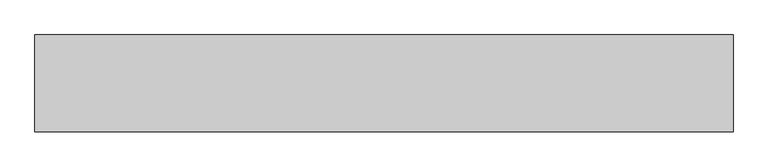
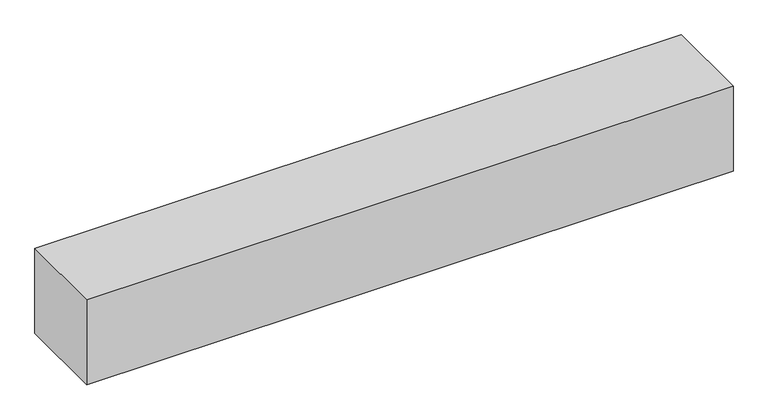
"""IFC4 building model written with IfcOpenShell, lengths in millimetres: proxy geometry, 営_屋上基礎_簡易 : 3600*500*H500."""

from ifc_helpers import new_model, si_unit, origin, origin_with_axes, place, context, project, spatial, polyline, outline, extrude, source, transform, mapped, element, save


def generic_models_0d24a473(model_context):
    return source(origin(), model_context, "Body", "SweptSolid", [
        extrude(outline(polyline([(1800.0, 250.0), (1800.0, -250.0), (-1800.0, -250.0), (-1800.0, 250.0), (1800.0, 250.0)])), origin_with_axes(), (0.0, 0.0, 1.0), 500.0),
    ])


if __name__ == "__main__":
    model = new_model("IFC4")
    model_context = context("Model", 3, world=origin())
    ifc_project = project(units=[si_unit("LENGTHUNIT", "METRE", prefix="MILLI")], contexts=[model_context])
    site = spatial("IfcSite", under=ifc_project)
    building = spatial("IfcBuilding", under=site)
    placement = place(None, origin())
    generic_models_shape = generic_models_0d24a473(model_context)
    element("IfcBuildingElementProxy", 1, Name="営_屋上基礎_簡易 : 3600*500*H500", ObjectType="営_屋上基礎_簡易 : 3600*500*H500", at=placement, inside=building, context=model_context, shape_type="MappedRepresentation", body=[
        mapped(generic_models_shape, transform((0.0, 0.0, 0.0), x_axis=(1.0, 0.0, 0.0), y_axis=(0.0, 1.0, 0.0), z_axis=(0.0, 0.0, 1.0))),
    ])
    save(model, "model.ifc")
